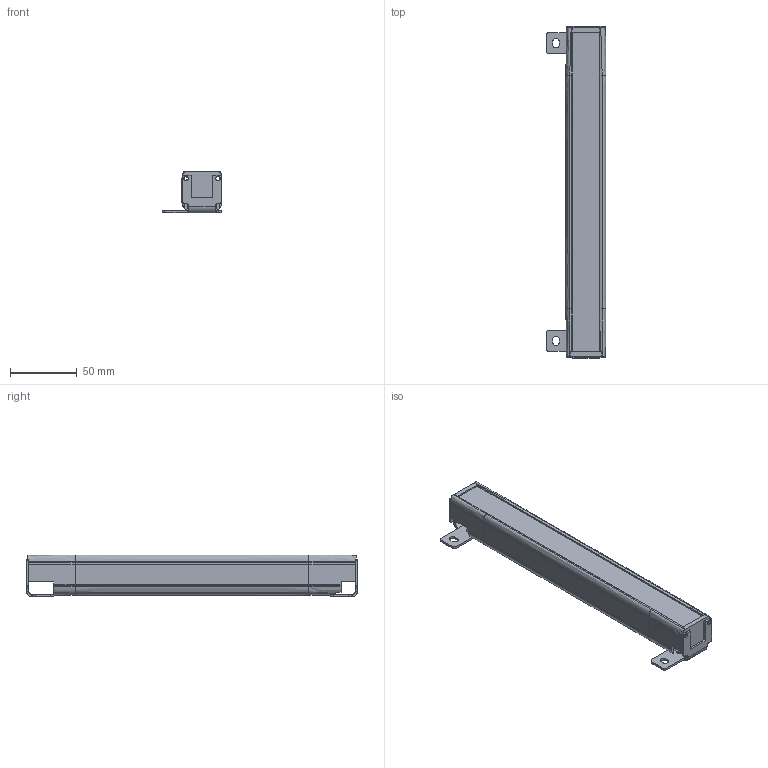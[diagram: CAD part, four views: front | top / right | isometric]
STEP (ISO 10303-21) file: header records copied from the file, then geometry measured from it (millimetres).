
FILE_DESCRIPTION(/* description */ (''),/* implementation_level */ '2;1');
FILE_NAME(/* name */ '2410（30X30).stp',/* time_stamp */ '2020-07-10T20:28:49+08:00',/* author */ (''),/* organization */ (''),/* preprocessor_version */ 'ST-DEVELOPER v16',/* originating_system */ 'SIEMENS PLM Software NX 10.0',/* authorisation */ '');
FILE_SCHEMA (('AP203_CONFIGURATION_CONTROLLED_3D_DESIGN_OF_MECHANICAL_PARTS_AND_ASSEMBLIES_MIM_LF { 1 0 10303 403 2 1 2}'));
Length unit declared in the file: millimetre
Products named in the file (1): Admi58A03253m5qh
Bounding box: 44.89 x 248.4 x 31.39 mm (x, y, z)
Volume: 76562.5 mm3; surface area: 84738 mm2
Topology: 6 solids, 6 shells, 441 faces, 1311 edges, 871 vertices
Faces by surface type: plane 256, cylinder 132, cone 32, bspline 14, extrusion 7
Full cylindrical faces by diameter (mm): 1.5 x2, 3.2 x8, 3.5 x8
Entity records: 15673 total; most frequent: CARTESIAN_POINT 3866, ORIENTED_EDGE 2528, DIRECTION 2314, EDGE_CURVE 1264, VECTOR 856, VERTEX_POINT 855, LINE 849, AXIS2_PLACEMENT_3D 729
